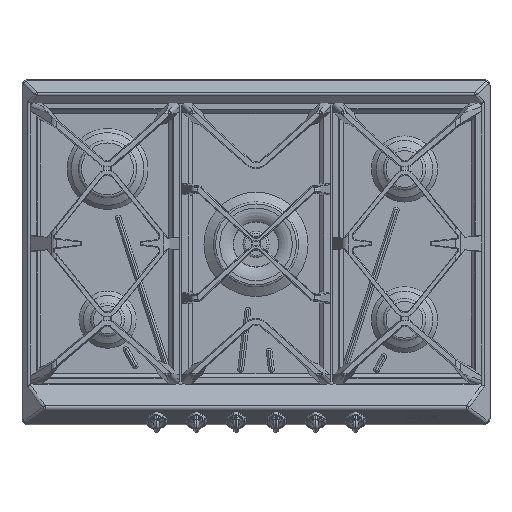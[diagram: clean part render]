
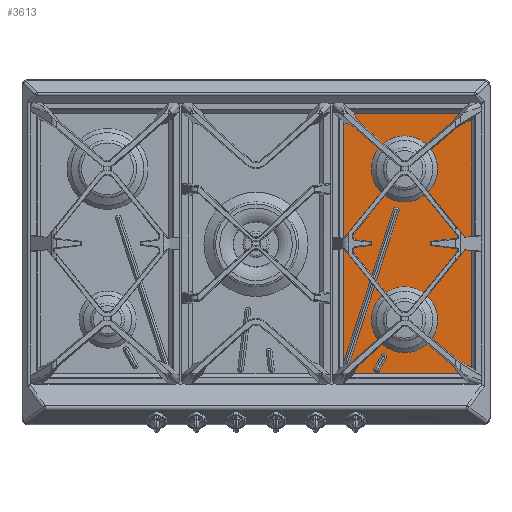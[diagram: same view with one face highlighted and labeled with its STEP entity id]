
A CAD part, top view. The second image highlights one B-rep face of the part: STEP entity #3613.
In plain terms, the highlighted planar face has unit normal (0, 0, 1).
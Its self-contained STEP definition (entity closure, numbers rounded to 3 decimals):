
#3613=ADVANCED_FACE('',(#8120,#8121,#8122,#8123,#8124),#4983,.T.);
#4983=PLANE('',#22542);
#5462=LINE('',#30690,#6787);
#5463=LINE('',#30694,#6788);
#5464=LINE('',#30698,#6789);
#5465=LINE('',#30702,#6790);
#5466=LINE('',#30707,#6791);
#5467=LINE('',#30710,#6792);
#5468=LINE('',#30712,#6793);
#5469=LINE('',#30714,#6794);
#6787=VECTOR('',#24824,1.);
#6788=VECTOR('',#24827,1.);
#6789=VECTOR('',#24830,1.);
#6790=VECTOR('',#24833,1.);
#6791=VECTOR('',#24838,1.);
#6792=VECTOR('',#24839,1.);
#6793=VECTOR('',#24840,1.);
#6794=VECTOR('',#24841,1.);
#8120=FACE_BOUND('',#8387,.T.);
#8121=FACE_BOUND('',#8388,.T.);
#8122=FACE_BOUND('',#8389,.T.);
#8123=FACE_BOUND('',#8390,.T.);
#8124=FACE_BOUND('',#8391,.T.);
#8387=EDGE_LOOP('',(#9921,#9922,#9923,#9924));
#8388=EDGE_LOOP('',(#9925,#9926,#9927,#9928));
#8389=EDGE_LOOP('',(#9929));
#8390=EDGE_LOOP('',(#9930));
#8391=EDGE_LOOP('',(#9931,#9932,#9933,#9934));
#9921=ORIENTED_EDGE('',*,*,#18477,.F.);
#9922=ORIENTED_EDGE('',*,*,#18478,.F.);
#9923=ORIENTED_EDGE('',*,*,#18479,.F.);
#9924=ORIENTED_EDGE('',*,*,#18480,.F.);
#9925=ORIENTED_EDGE('',*,*,#18481,.F.);
#9926=ORIENTED_EDGE('',*,*,#18482,.F.);
#9927=ORIENTED_EDGE('',*,*,#18483,.F.);
#9928=ORIENTED_EDGE('',*,*,#18484,.F.);
#9929=ORIENTED_EDGE('',*,*,#18485,.F.);
#9930=ORIENTED_EDGE('',*,*,#18486,.F.);
#9931=ORIENTED_EDGE('',*,*,#18487,.T.);
#9932=ORIENTED_EDGE('',*,*,#18488,.T.);
#9933=ORIENTED_EDGE('',*,*,#18489,.F.);
#9934=ORIENTED_EDGE('',*,*,#18490,.T.);
#16429=VERTEX_POINT('',#30688);
#16430=VERTEX_POINT('',#30689);
#16431=VERTEX_POINT('',#30691);
#16432=VERTEX_POINT('',#30693);
#16433=VERTEX_POINT('',#30696);
#16434=VERTEX_POINT('',#30697);
#16435=VERTEX_POINT('',#30699);
#16436=VERTEX_POINT('',#30701);
#16437=VERTEX_POINT('',#30704);
#16438=VERTEX_POINT('',#30706);
#16439=VERTEX_POINT('',#30708);
#16440=VERTEX_POINT('',#30709);
#16441=VERTEX_POINT('',#30711);
#16442=VERTEX_POINT('',#30713);
#18477=EDGE_CURVE('',#16429,#16430,#21715,.T.);
#18478=EDGE_CURVE('',#16431,#16429,#5462,.T.);
#18479=EDGE_CURVE('',#16432,#16431,#21716,.T.);
#18480=EDGE_CURVE('',#16430,#16432,#5463,.T.);
#18481=EDGE_CURVE('',#16433,#16434,#21717,.T.);
#18482=EDGE_CURVE('',#16435,#16433,#5464,.T.);
#18483=EDGE_CURVE('',#16436,#16435,#21718,.T.);
#18484=EDGE_CURVE('',#16434,#16436,#5465,.T.);
#18485=EDGE_CURVE('',#16437,#16437,#21719,.T.);
#18486=EDGE_CURVE('',#16438,#16438,#21720,.T.);
#18487=EDGE_CURVE('',#16439,#16440,#5466,.T.);
#18488=EDGE_CURVE('',#16440,#16441,#5467,.T.);
#18489=EDGE_CURVE('',#16442,#16441,#5468,.T.);
#18490=EDGE_CURVE('',#16442,#16439,#5469,.T.);
#21715=CIRCLE('',#22536,4.2);
#21716=CIRCLE('',#22537,4.2);
#21717=CIRCLE('',#22538,4.2);
#21718=CIRCLE('',#22539,4.2);
#21719=CIRCLE('',#22540,48.2);
#21720=CIRCLE('',#22541,48.2);
#22536=AXIS2_PLACEMENT_3D('',#30687,#24822,#24823);
#22537=AXIS2_PLACEMENT_3D('',#30692,#24825,#24826);
#22538=AXIS2_PLACEMENT_3D('',#30695,#24828,#24829);
#22539=AXIS2_PLACEMENT_3D('',#30700,#24831,#24832);
#22540=AXIS2_PLACEMENT_3D('',#30703,#24834,#24835);
#22541=AXIS2_PLACEMENT_3D('',#30705,#24836,#24837);
#22542=AXIS2_PLACEMENT_3D('',#30715,#24842,#24843);
#24822=DIRECTION('',(0.,0.,1.));
#24823=DIRECTION('',(1.,0.,0.));
#24824=DIRECTION('',(-0.485,-0.875,0.));
#24825=DIRECTION('',(0.,0.,1.));
#24826=DIRECTION('',(1.,0.,0.));
#24827=DIRECTION('',(0.485,0.875,0.));
#24828=DIRECTION('',(0.,0.,1.));
#24829=DIRECTION('',(1.,0.,0.));
#24830=DIRECTION('',(-0.309,-0.951,0.));
#24831=DIRECTION('',(0.,0.,1.));
#24832=DIRECTION('',(1.,0.,0.));
#24833=DIRECTION('',(0.309,0.951,0.));
#24834=DIRECTION('',(0.,0.,1.));
#24835=DIRECTION('',(1.,0.,0.));
#24836=DIRECTION('',(0.,0.,1.));
#24837=DIRECTION('',(1.,0.,0.));
#24838=DIRECTION('',(-1.,0.,0.));
#24839=DIRECTION('',(0.,-1.,0.));
#24840=DIRECTION('',(-1.,0.,0.));
#24841=DIRECTION('',(0.,1.,0.));
#24842=DIRECTION('',(0.,0.,1.));
#24843=DIRECTION('',(1.,0.,0.));
#30687=CARTESIAN_POINT('',(497.5,80.1,13.));
#30688=CARTESIAN_POINT('',(493.827,82.136,13.));
#30689=CARTESIAN_POINT('',(501.173,78.064,13.));
#30690=CARTESIAN_POINT('',(504.298,101.028,13.));
#30691=CARTESIAN_POINT('',(504.298,101.028,13.));
#30692=CARTESIAN_POINT('',(507.972,98.992,13.));
#30693=CARTESIAN_POINT('',(511.645,96.956,13.));
#30694=CARTESIAN_POINT('',(501.173,78.064,13.));
#30695=CARTESIAN_POINT('',(451.8,84.45,13.));
#30696=CARTESIAN_POINT('',(447.806,85.748,13.));
#30697=CARTESIAN_POINT('',(455.794,83.152,13.));
#30698=CARTESIAN_POINT('',(522.124,314.477,13.));
#30699=CARTESIAN_POINT('',(522.124,314.477,13.));
#30700=CARTESIAN_POINT('',(526.119,313.179,13.));
#30701=CARTESIAN_POINT('',(530.113,311.881,13.));
#30702=CARTESIAN_POINT('',(455.794,83.152,13.));
#30703=CARTESIAN_POINT('',(538.2,153.,13.));
#30704=CARTESIAN_POINT('',(586.4,153.,13.));
#30705=CARTESIAN_POINT('',(538.2,373.,13.));
#30706=CARTESIAN_POINT('',(586.4,373.,13.));
#30707=CARTESIAN_POINT('',(-20.,462.859,13.));
#30708=CARTESIAN_POINT('',(645.515,462.859,13.));
#30709=CARTESIAN_POINT('',(438.715,462.859,13.));
#30710=CARTESIAN_POINT('',(438.715,483.25,13.));
#30711=CARTESIAN_POINT('',(438.715,65.572,13.));
#30712=CARTESIAN_POINT('',(-20.,65.572,13.));
#30713=CARTESIAN_POINT('',(645.515,65.572,13.));
#30714=CARTESIAN_POINT('',(645.515,31.75,13.));
#30715=CARTESIAN_POINT('',(-20.,0.,13.));
